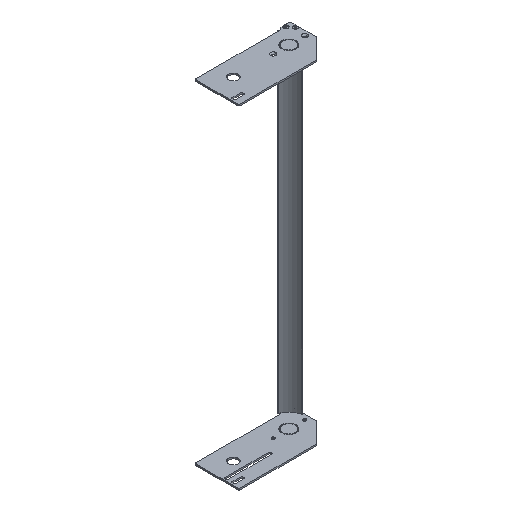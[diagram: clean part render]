
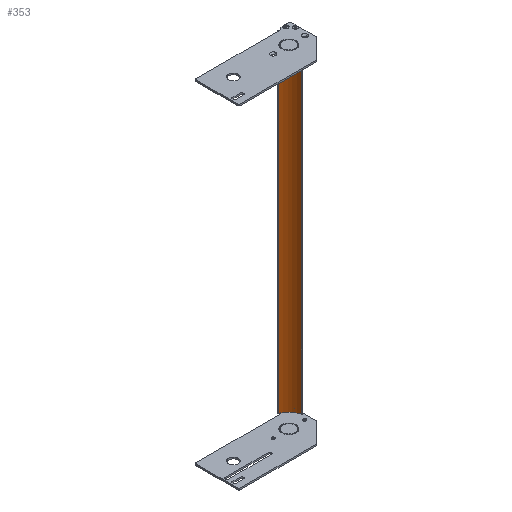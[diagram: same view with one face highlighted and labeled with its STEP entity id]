
A CAD part, isometric view. The second image highlights one B-rep face of the part: STEP entity #353.
In plain terms, the highlighted cylindrical face has radius 40.64 mm (diameter 81.28 mm), a partial arc.
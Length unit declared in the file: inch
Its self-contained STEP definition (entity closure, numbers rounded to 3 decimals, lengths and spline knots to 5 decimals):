
#15=CARTESIAN_POINT('',(-1.63,-1.52,-13.118));
#16=DIRECTION('',(0.,0.,1.));
#17=DIRECTION('',(0.946,0.325,0.));
#18=AXIS2_PLACEMENT_3D('',#15,#16,#17);
#66=DIRECTION('',(0.,0.,1.));
#67=VECTOR('',#66,26.236);
#68=CARTESIAN_POINT('',(-0.98126,-0.05742,-13.118));
#69=LINE('',#68,#67);
#85=CARTESIAN_POINT('',(-1.63,-1.52,13.118));
#86=DIRECTION('',(0.,0.,-1.));
#87=DIRECTION('',(0.405,0.914,0.));
#88=AXIS2_PLACEMENT_3D('',#85,#86,#87);
#131=DIRECTION('',(0.,0.,1.));
#132=VECTOR('',#131,26.236);
#133=CARTESIAN_POINT('',(-0.11675,-1.00032,-13.118));
#134=LINE('',#133,#132);
#151=CARTESIAN_POINT('',(-0.98126,-0.05742,-13.118));
#153=VERTEX_POINT('',#151);
#159=CARTESIAN_POINT('',(-0.98126,-0.05742,13.118));
#160=CARTESIAN_POINT('',(-0.11675,-1.00032,13.118));
#161=VERTEX_POINT('',#159);
#162=VERTEX_POINT('',#160);
#171=CARTESIAN_POINT('',(-0.11675,-1.00032,-13.118));
#172=VERTEX_POINT('',#171);
#342=CARTESIAN_POINT('',(-1.63,-1.52,13.118));
#343=DIRECTION('',(0.,0.,-1.));
#344=DIRECTION('',(-1.,0.,0.));
#345=AXIS2_PLACEMENT_3D('',#342,#343,#344);
#346=CYLINDRICAL_SURFACE('',#345,1.6);
#347=ORIENTED_EDGE('',*,*,#220,.T.);
#348=ORIENTED_EDGE('',*,*,#266,.T.);
#349=ORIENTED_EDGE('',*,*,#286,.T.);
#350=ORIENTED_EDGE('',*,*,#202,.F.);
#351=EDGE_LOOP('',(#347,#348,#349,#350));
#352=FACE_OUTER_BOUND('',#351,.F.);
#19=CIRCLE('',#18,1.6);
#89=CIRCLE('',#88,1.6);
#202=EDGE_CURVE('',#172,#162,#134,.T.);
#220=EDGE_CURVE('',#172,#153,#19,.T.);
#266=EDGE_CURVE('',#153,#161,#69,.T.);
#286=EDGE_CURVE('',#161,#162,#89,.T.);
#353=ADVANCED_FACE('',(#352),#346,.F.);
